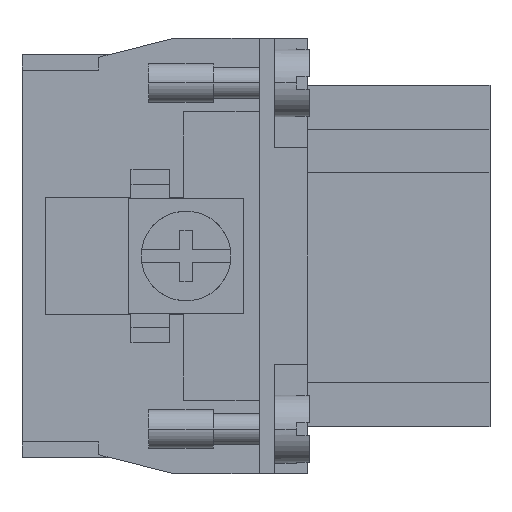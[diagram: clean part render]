
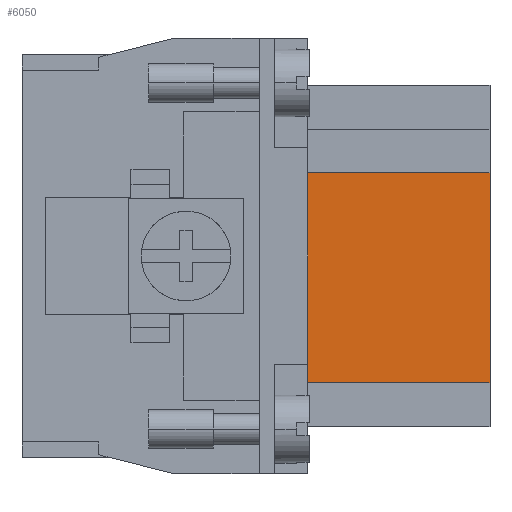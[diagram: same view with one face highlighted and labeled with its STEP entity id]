
A CAD part, left-side view. The second image highlights one B-rep face of the part: STEP entity #6050.
In plain terms, the highlighted planar face has unit normal (-1, 0, 0).
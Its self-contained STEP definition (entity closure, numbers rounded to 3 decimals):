
#193 = CARTESIAN_POINT ( 'NONE',  ( -15.5, 0., 0. ) ) ;
#286 = CARTESIAN_POINT ( 'NONE',  ( -15.5, -14.2, 6.5 ) ) ;
#660 = LINE ( 'NONE', #286, #6594 ) ;
#685 = LINE ( 'NONE', #8329, #7648 ) ;
#914 = LINE ( 'NONE', #4126, #3294 ) ;
#1530 = ORIENTED_EDGE ( 'NONE', *, *, #3318, .T. ) ;
#1723 = PLANE ( 'NONE',  #5665 ) ;
#1743 = DIRECTION ( 'NONE',  ( 0., 1., 0. ) ) ;
#1821 = CARTESIAN_POINT ( 'NONE',  ( -15.5, 0., 6.5 ) ) ;
#1998 = ORIENTED_EDGE ( 'NONE', *, *, #7774, .F. ) ;
#2165 = CARTESIAN_POINT ( 'NONE',  ( -15.5, -14.2, -9.9 ) ) ;
#2451 = CARTESIAN_POINT ( 'NONE',  ( -15.5, -34.516, 6.5 ) ) ;
#2491 = CARTESIAN_POINT ( 'NONE',  ( -15.5, 0., -9.9 ) ) ;
#2930 = CARTESIAN_POINT ( 'NONE',  ( -15.5, -14.2, 6.5 ) ) ;
#3294 = VECTOR ( 'NONE', #3358, 1000. ) ;
#3318 = EDGE_CURVE ( 'NONE', #4695, #5689, #914, .T. ) ;
#3358 = DIRECTION ( 'NONE',  ( 0., 1., 0. ) ) ;
#3767 = ORIENTED_EDGE ( 'NONE', *, *, #7823, .F. ) ;
#3957 = EDGE_CURVE ( 'NONE', #4695, #10120, #660, .T. ) ;
#4011 = DIRECTION ( 'NONE',  ( 1., 0., 0. ) ) ;
#4126 = CARTESIAN_POINT ( 'NONE',  ( -15.5, -34.516, 6.5 ) ) ;
#4695 = VERTEX_POINT ( 'NONE', #2930 ) ;
#5665 = AXIS2_PLACEMENT_3D ( 'NONE', #2451, #4011, #7269 ) ;
#5689 = VERTEX_POINT ( 'NONE', #1821 ) ;
#5776 = EDGE_LOOP ( 'NONE', ( #1998, #3767, #8161, #1530 ) ) ;
#6050 = ADVANCED_FACE ( 'NONE', ( #9195 ), #1723, .F. ) ;
#6245 = LINE ( 'NONE', #193, #9289 ) ;
#6594 = VECTOR ( 'NONE', #9099, 1000. ) ;
#6676 = DIRECTION ( 'NONE',  ( 0., 0., 1. ) ) ;
#7269 = DIRECTION ( 'NONE',  ( 0., 1., 0. ) ) ;
#7648 = VECTOR ( 'NONE', #1743, 1000. ) ;
#7774 = EDGE_CURVE ( 'NONE', #8236, #5689, #6245, .T. ) ;
#7823 = EDGE_CURVE ( 'NONE', #10120, #8236, #685, .T. ) ;
#8161 = ORIENTED_EDGE ( 'NONE', *, *, #3957, .F. ) ;
#8236 = VERTEX_POINT ( 'NONE', #2491 ) ;
#8329 = CARTESIAN_POINT ( 'NONE',  ( -15.5, -34.516, -9.9 ) ) ;
#9099 = DIRECTION ( 'NONE',  ( 0., 0., -1. ) ) ;
#9195 = FACE_OUTER_BOUND ( 'NONE', #5776, .T. ) ;
#9289 = VECTOR ( 'NONE', #6676, 1000. ) ;
#10120 = VERTEX_POINT ( 'NONE', #2165 ) ;
